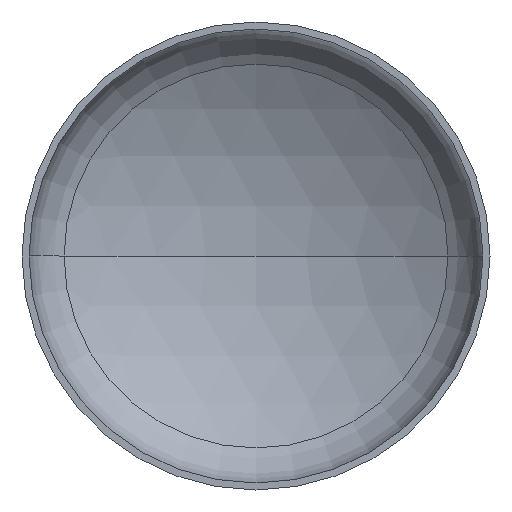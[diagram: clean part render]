
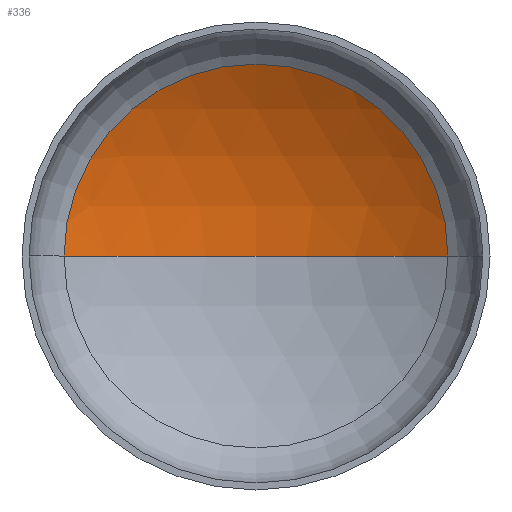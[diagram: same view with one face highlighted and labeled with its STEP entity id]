
A CAD part, front view. The second image highlights one B-rep face of the part: STEP entity #336.
In plain terms, the highlighted spherical face has radius 1120 mm.
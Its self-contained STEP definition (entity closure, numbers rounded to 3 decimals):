
#21 = CIRCLE ( 'NONE', #41, 1120. ) ;
#24 = EDGE_LOOP ( 'NONE', ( #50, #33, #153 ) ) ;
#27 = AXIS2_PLACEMENT_3D ( 'NONE', #385, #143, #334 ) ;
#32 = AXIS2_PLACEMENT_3D ( 'NONE', #82, #66, #60 ) ;
#33 = ORIENTED_EDGE ( 'NONE', *, *, #197, .T. ) ;
#41 = AXIS2_PLACEMENT_3D ( 'NONE', #176, #174, #42 ) ;
#42 = DIRECTION ( 'NONE',  ( -1., 0., 0. ) ) ;
#43 = AXIS2_PLACEMENT_3D ( 'NONE', #220, #222, #260 ) ;
#50 = ORIENTED_EDGE ( 'NONE', *, *, #205, .F. ) ;
#60 = DIRECTION ( 'NONE',  ( 1., 0., 0. ) ) ;
#66 = DIRECTION ( 'NONE',  ( 0., 0., 1. ) ) ;
#82 = CARTESIAN_POINT ( 'NONE',  ( 0., -707., 0. ) ) ;
#119 = VERTEX_POINT ( 'NONE', #310 ) ;
#124 = FACE_OUTER_BOUND ( 'NONE', #24, .T. ) ;
#143 = DIRECTION ( 'NONE',  ( 0., 0., -1. ) ) ;
#153 = ORIENTED_EDGE ( 'NONE', *, *, #183, .T. ) ;
#166 = VERTEX_POINT ( 'NONE', #331 ) ;
#174 = DIRECTION ( 'NONE',  ( 0., 0., -1. ) ) ;
#176 = CARTESIAN_POINT ( 'NONE',  ( 0., -707., 0. ) ) ;
#177 = VERTEX_POINT ( 'NONE', #279 ) ;
#181 = CIRCLE ( 'NONE', #43, 574.232 ) ;
#183 = EDGE_CURVE ( 'NONE', #119, #177, #181, .T. ) ;
#197 = EDGE_CURVE ( 'NONE', #166, #119, #21, .T. ) ;
#205 = EDGE_CURVE ( 'NONE', #166, #177, #293, .T. ) ;
#220 = CARTESIAN_POINT ( 'NONE',  ( 0., 254.591, 0. ) ) ;
#222 = DIRECTION ( 'NONE',  ( 0., -1., 0. ) ) ;
#226 = SPHERICAL_SURFACE ( 'NONE', #27, 1120. ) ;
#260 = DIRECTION ( 'NONE',  ( 1., 0., 0. ) ) ;
#279 = CARTESIAN_POINT ( 'NONE',  ( -574.232, 254.591, 0. ) ) ;
#293 = CIRCLE ( 'NONE', #32, 1120. ) ;
#310 = CARTESIAN_POINT ( 'NONE',  ( 574.232, 254.591, 0. ) ) ;
#331 = CARTESIAN_POINT ( 'NONE',  ( 0., 413., 0. ) ) ;
#334 = DIRECTION ( 'NONE',  ( -1., 0., 0. ) ) ;
#336 = ADVANCED_FACE ( 'NONE', ( #124 ), #226, .F. ) ;
#385 = CARTESIAN_POINT ( 'NONE',  ( 0., -707., 0. ) ) ;
